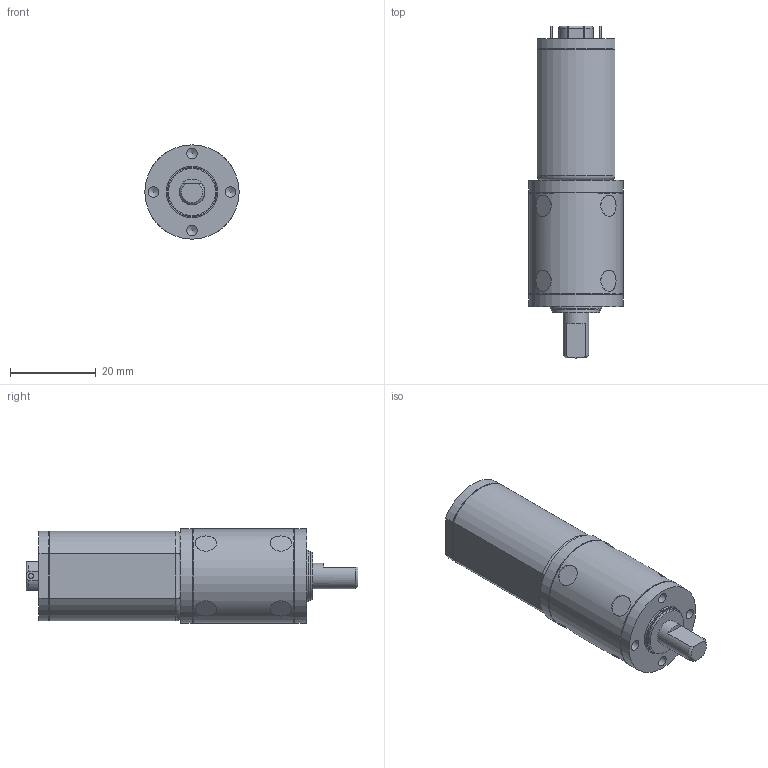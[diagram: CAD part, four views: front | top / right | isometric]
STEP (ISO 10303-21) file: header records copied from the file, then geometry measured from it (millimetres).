
FILE_DESCRIPTION((''),'2;1');
FILE_NAME('C:\Documents and Settings\SSEGAWA\デスクトップ\TP-2133C-KP-3.STP','2013-06-14T17:01:22',('SSEGAWA'),(''),'Autodesk Inventor 2010','Autodesk Inventor 2010','');
FILE_SCHEMA(('CONFIG_CONTROL_DESIGN'));
Length unit declared in the file: millimetre
Products named in the file (3): tp_2133c,d_kp_64~107_s00_12,24; kp_3; tp_2133
Assembly tree (2 placements, depth 2):
  tp_2133c,d_kp_64~107_s00_12,24
    kp_3
    tp_2133
Bounding box: 22 x 77.5 x 22 mm (x, y, z)
Volume: 22496.5 mm3; surface area: 6196.1 mm2
Topology: 2 solids, 2 shells, 104 faces, 226 edges, 149 vertices
Faces by surface type: plane 39, cylinder 34, bspline 21, torus 5, sphere 4, cone 1
Full cylindrical faces by diameter (mm): 1.2 x1, 2 x1, 5 x4, 6 x1, 6.5 x1, 11 x1, 11.5 x1, 12 x1, 21.6 x2, 22 x3
Entity records: 3203 total; most frequent: CARTESIAN_POINT 1053, DIRECTION 418, ORIENTED_EDGE 350, AXIS2_PLACEMENT_3D 177, EDGE_CURVE 175, EDGE_LOOP 165, VERTEX_POINT 132, FACE_OUTER_BOUND 104
